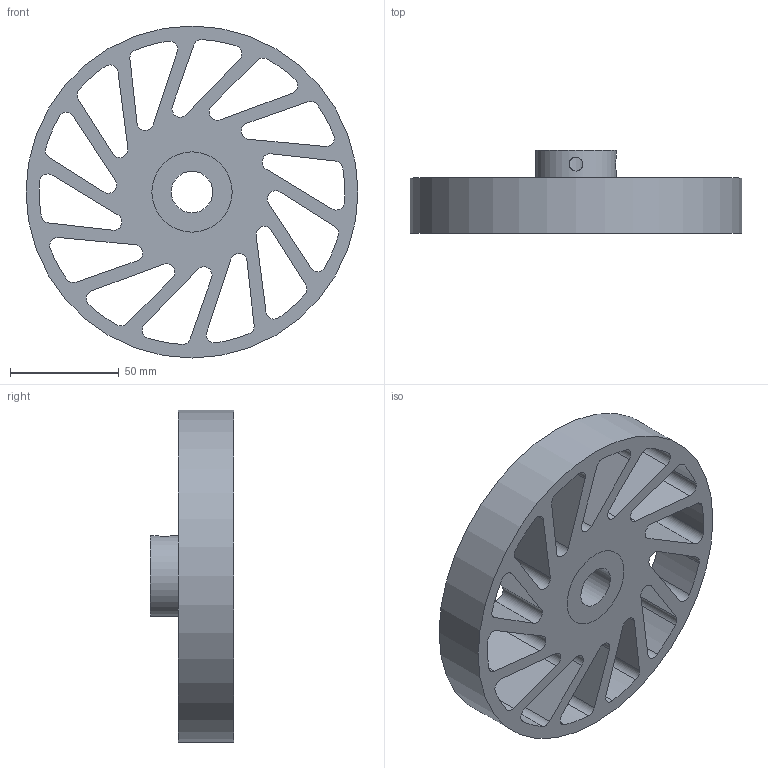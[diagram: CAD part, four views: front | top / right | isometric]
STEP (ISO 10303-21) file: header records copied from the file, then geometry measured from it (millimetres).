
FILE_DESCRIPTION(/* description */ (''),/* implementation_level */ '2;1');
FILE_NAME(/* name */ 'NCW-570-XXX-YYY.stp',/* time_stamp */ '2023-02-02T15:35:37-06:00',/* author */ ('AG'),/* organization */ ('Meridian Laboratory'),/* preprocessor_version */ 'ST-DEVELOPER v18.1',/* originating_system */ 'Autodesk Inventor 2022',/* authorisation */ '');
FILE_SCHEMA (('AUTOMOTIVE_DESIGN { 1 0 10303 214 3 1 1 }'));
Length unit declared in the file: inch
Products named in the file (1): NCW-540
Bounding box: 152.4 x 38.1 x 152.4 mm (x, y, z)
Volume: 261876 mm3; surface area: 78809.8 mm2
Topology: 2 solids, 2 shells, 94 faces, 276 edges, 186 vertices
Faces by surface type: cylinder 62, plane 32
Full cylindrical faces by diameter (mm): 6.35 x2, 19.075 x1, 36.83 x2, 152.4 x1
Entity records: 3518 total; most frequent: CARTESIAN_POINT 697, DIRECTION 576, ORIENTED_EDGE 552, EDGE_CURVE 276, AXIS2_PLACEMENT_3D 215, VERTEX_POINT 186, LINE 146, VECTOR 146
